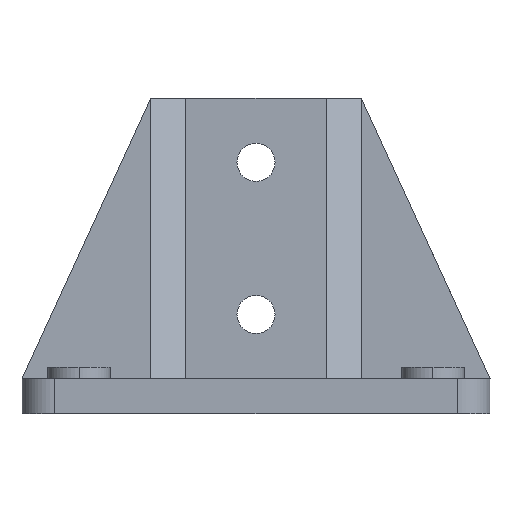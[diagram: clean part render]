
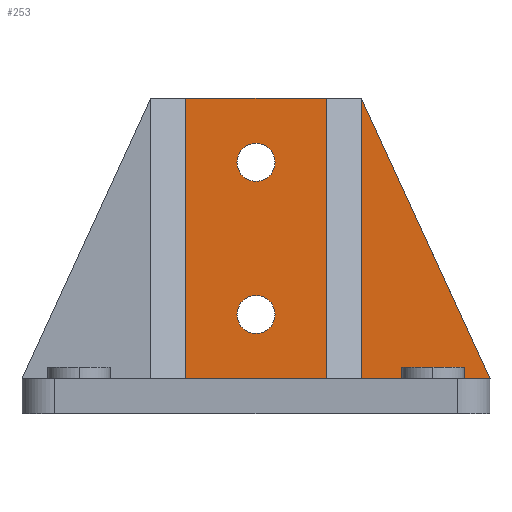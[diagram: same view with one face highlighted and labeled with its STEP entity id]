
A CAD part, front view. The second image highlights one B-rep face of the part: STEP entity #253.
In plain terms, the highlighted planar face has unit normal (0, -1, 0).
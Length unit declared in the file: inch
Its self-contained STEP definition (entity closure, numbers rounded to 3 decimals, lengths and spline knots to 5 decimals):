
#253=ADVANCED_FACE('',(#550,#551,#552),#553,.T.);
#550=FACE_OUTER_BOUND('',#1095,.T.);
#551=FACE_BOUND('',#1096,.T.);
#552=FACE_BOUND('',#1097,.T.);
#553=PLANE('',#1098);
#1095=EDGE_LOOP('',(#1821,#1822,#1823,#1824,#1825,#1826,#1827));
#1096=EDGE_LOOP('',(#1828,#1829,#1830,#1831));
#1097=EDGE_LOOP('',(#1832,#1833,#1834,#1835));
#1098=AXIS2_PLACEMENT_3D('',#1836,#1837,#1838);
#1821=ORIENTED_EDGE('',*,*,#2446,.T.);
#1822=ORIENTED_EDGE('',*,*,#2447,.T.);
#1823=ORIENTED_EDGE('',*,*,#2448,.T.);
#1824=ORIENTED_EDGE('',*,*,#2426,.T.);
#1825=ORIENTED_EDGE('',*,*,#2292,.F.);
#1826=ORIENTED_EDGE('',*,*,#2347,.F.);
#1827=ORIENTED_EDGE('',*,*,#2449,.F.);
#1828=ORIENTED_EDGE('',*,*,#2416,.T.);
#1829=ORIENTED_EDGE('',*,*,#2391,.T.);
#1830=ORIENTED_EDGE('',*,*,#2450,.T.);
#1831=ORIENTED_EDGE('',*,*,#2234,.T.);
#1832=ORIENTED_EDGE('',*,*,#2277,.T.);
#1833=ORIENTED_EDGE('',*,*,#2451,.T.);
#1834=ORIENTED_EDGE('',*,*,#2452,.T.);
#1835=ORIENTED_EDGE('',*,*,#2428,.T.);
#1836=CARTESIAN_POINT('',(2.79637,0.06249,0.0));
#1837=DIRECTION('',(0.0,-1.0,0.0));
#1838=DIRECTION('',(1.0,0.0,0.0));
#2234=EDGE_CURVE('',#2631,#2632,#2633,.T.);
#2277=EDGE_CURVE('',#2706,#2707,#2708,.T.);
#2292=EDGE_CURVE('',#2731,#2554,#2733,.T.);
#2347=EDGE_CURVE('',#2818,#2731,#2820,.T.);
#2391=EDGE_CURVE('',#2884,#2885,#2886,.T.);
#2416=EDGE_CURVE('',#2632,#2884,#2921,.T.);
#2426=EDGE_CURVE('',#2929,#2554,#2933,.T.);
#2428=EDGE_CURVE('',#2935,#2706,#2936,.T.);
#2446=EDGE_CURVE('',#2959,#2960,#2961,.T.);
#2447=EDGE_CURVE('',#2960,#2962,#2963,.T.);
#2448=EDGE_CURVE('',#2962,#2929,#2964,.T.);
#2449=EDGE_CURVE('',#2959,#2818,#2965,.T.);
#2450=EDGE_CURVE('',#2885,#2631,#2966,.T.);
#2451=EDGE_CURVE('',#2707,#2967,#2968,.T.);
#2452=EDGE_CURVE('',#2967,#2935,#2969,.T.);
#2554=VERTEX_POINT('',#3081);
#2631=VERTEX_POINT('',#3239);
#2632=VERTEX_POINT('',#3240);
#2633=B_SPLINE_CURVE_WITH_KNOTS('',3,(#3241,#3242,#3243,#3244),.UNSPECIFIED.,.F.,.F.,(4,4),(0.0,1.0),.UNSPECIFIED.);
#2706=VERTEX_POINT('',#3380);
#2707=VERTEX_POINT('',#3381);
#2708=B_SPLINE_CURVE_WITH_KNOTS('',3,(#3382,#3383,#3384,#3385),.UNSPECIFIED.,.F.,.F.,(4,4),(0.0,1.0),.UNSPECIFIED.);
#2731=VERTEX_POINT('',#3425);
#2733=LINE('',#3428,#3429);
#2818=VERTEX_POINT('',#3608);
#2820=LINE('',#3611,#3612);
#2884=VERTEX_POINT('',#3721);
#2885=VERTEX_POINT('',#3722);
#2886=B_SPLINE_CURVE_WITH_KNOTS('',3,(#3723,#3724,#3725,#3726),.UNSPECIFIED.,.F.,.F.,(4,4),(0.0,1.0),.UNSPECIFIED.);
#2921=B_SPLINE_CURVE_WITH_KNOTS('',3,(#3787,#3788,#3789,#3790),.UNSPECIFIED.,.F.,.F.,(4,4),(0.0,1.0),.UNSPECIFIED.);
#2929=VERTEX_POINT('',#3804);
#2933=LINE('',#3810,#3811);
#2935=VERTEX_POINT('',#3813);
#2936=B_SPLINE_CURVE_WITH_KNOTS('',3,(#3814,#3815,#3816,#3817),.UNSPECIFIED.,.F.,.F.,(4,4),(0.0,1.0),.UNSPECIFIED.);
#2959=VERTEX_POINT('',#3867);
#2960=VERTEX_POINT('',#3868);
#2961=LINE('',#3869,#3870);
#2962=VERTEX_POINT('',#3871);
#2963=LINE('',#3872,#3873);
#2964=LINE('',#3874,#3875);
#2965=LINE('',#3876,#3877);
#2966=B_SPLINE_CURVE_WITH_KNOTS('',3,(#3878,#3879,#3880,#3881),.UNSPECIFIED.,.F.,.F.,(4,4),(0.0,1.0),.UNSPECIFIED.);
#2967=VERTEX_POINT('',#3882);
#2968=B_SPLINE_CURVE_WITH_KNOTS('',3,(#3883,#3884,#3885,#3886),.UNSPECIFIED.,.F.,.F.,(4,4),(0.0,1.0),.UNSPECIFIED.);
#2969=B_SPLINE_CURVE_WITH_KNOTS('',3,(#3887,#3888,#3889,#3890),.UNSPECIFIED.,.F.,.F.,(4,4),(0.0,1.0),.UNSPECIFIED.);
#3081=CARTESIAN_POINT('',(1.67137,0.06249,0.00001));
#3239=CARTESIAN_POINT('',(2.79637,0.06249,2.10938));
#3240=CARTESIAN_POINT('',(2.59325,0.06249,2.3125));
#3241=CARTESIAN_POINT('',(2.79637,0.06249,2.10938));
#3242=CARTESIAN_POINT('',(2.6842,0.06249,2.10938));
#3243=CARTESIAN_POINT('',(2.59325,0.06249,2.20033));
#3244=CARTESIAN_POINT('',(2.59325,0.06249,2.3125));
#3380=CARTESIAN_POINT('',(2.59325,0.06249,0.6875));
#3381=CARTESIAN_POINT('',(2.79637,0.06249,0.89063));
#3382=CARTESIAN_POINT('',(2.59325,0.06249,0.6875));
#3383=CARTESIAN_POINT('',(2.59325,0.06249,0.7997));
#3384=CARTESIAN_POINT('',(2.6842,0.06249,0.89063));
#3385=CARTESIAN_POINT('',(2.79637,0.06249,0.89063));
#3425=CARTESIAN_POINT('',(1.67137,0.06249,0.0));
#3428=CARTESIAN_POINT('',(1.67137,0.06249,0.0));
#3429=VECTOR('',#4115,1.0);
#3608=CARTESIAN_POINT('',(5.29619,0.06249,0.0));
#3611=CARTESIAN_POINT('',(3.92137,0.06249,0.0));
#3612=VECTOR('',#4136,1.);
#3721=CARTESIAN_POINT('',(2.79637,0.06249,2.51564));
#3722=CARTESIAN_POINT('',(2.9995,0.06249,2.3125));
#3723=CARTESIAN_POINT('',(2.79637,0.06249,2.51564));
#3724=CARTESIAN_POINT('',(2.90857,0.06249,2.51564));
#3725=CARTESIAN_POINT('',(2.9995,0.06249,2.4247));
#3726=CARTESIAN_POINT('',(2.9995,0.06249,2.3125));
#3787=CARTESIAN_POINT('',(2.59325,0.06249,2.3125));
#3788=CARTESIAN_POINT('',(2.59325,0.06249,2.4247));
#3789=CARTESIAN_POINT('',(2.6842,0.06249,2.51564));
#3790=CARTESIAN_POINT('',(2.79637,0.06249,2.51564));
#3804=CARTESIAN_POINT('',(2.04637,0.06249,0.00001));
#3810=CARTESIAN_POINT('',(2.23387,0.06249,0.00001));
#3811=VECTOR('',#4177,1.);
#3813=CARTESIAN_POINT('',(2.79637,0.06249,0.48438));
#3814=CARTESIAN_POINT('',(2.79637,0.06249,0.48438));
#3815=CARTESIAN_POINT('',(2.6842,0.06249,0.48438));
#3816=CARTESIAN_POINT('',(2.59325,0.06249,0.57533));
#3817=CARTESIAN_POINT('',(2.59325,0.06249,0.6875));
#3867=CARTESIAN_POINT('',(3.92137,0.06249,2.9996));
#3868=CARTESIAN_POINT('',(3.92137,0.06249,3.0));
#3869=CARTESIAN_POINT('',(3.92137,0.06249,0.0));
#3870=VECTOR('',#4181,1.0);
#3871=CARTESIAN_POINT('',(2.04637,0.06249,3.0));
#3872=CARTESIAN_POINT('',(3.92137,0.06249,3.0));
#3873=VECTOR('',#4182,1.);
#3874=CARTESIAN_POINT('',(2.04637,0.06249,0.61564));
#3875=VECTOR('',#4183,1.);
#3876=CARTESIAN_POINT('',(3.92119,0.06249,2.99999));
#3877=VECTOR('',#4184,1.);
#3878=CARTESIAN_POINT('',(2.9995,0.06249,2.3125));
#3879=CARTESIAN_POINT('',(2.9995,0.06249,2.20033));
#3880=CARTESIAN_POINT('',(2.90857,0.06249,2.10938));
#3881=CARTESIAN_POINT('',(2.79637,0.06249,2.10938));
#3882=CARTESIAN_POINT('',(2.9995,0.06249,0.6875));
#3883=CARTESIAN_POINT('',(2.79637,0.06249,0.89063));
#3884=CARTESIAN_POINT('',(2.90857,0.06249,0.89063));
#3885=CARTESIAN_POINT('',(2.9995,0.06249,0.7997));
#3886=CARTESIAN_POINT('',(2.9995,0.06249,0.6875));
#3887=CARTESIAN_POINT('',(2.9995,0.06249,0.6875));
#3888=CARTESIAN_POINT('',(2.9995,0.06249,0.57533));
#3889=CARTESIAN_POINT('',(2.90857,0.06249,0.48438));
#3890=CARTESIAN_POINT('',(2.79637,0.06249,0.48438));
#4115=DIRECTION('',(0.0,0.0,1.0));
#4136=DIRECTION('',(-1.0,0.0,0.0));
#4177=DIRECTION('',(-1.0,-0.0,0.0));
#4181=DIRECTION('',(0.0,0.0,1.0));
#4182=DIRECTION('',(-1.0,0.0,0.0));
#4183=DIRECTION('',(0.,-0.0,-1.0));
#4184=DIRECTION('',(0.417,0.,-0.909));
